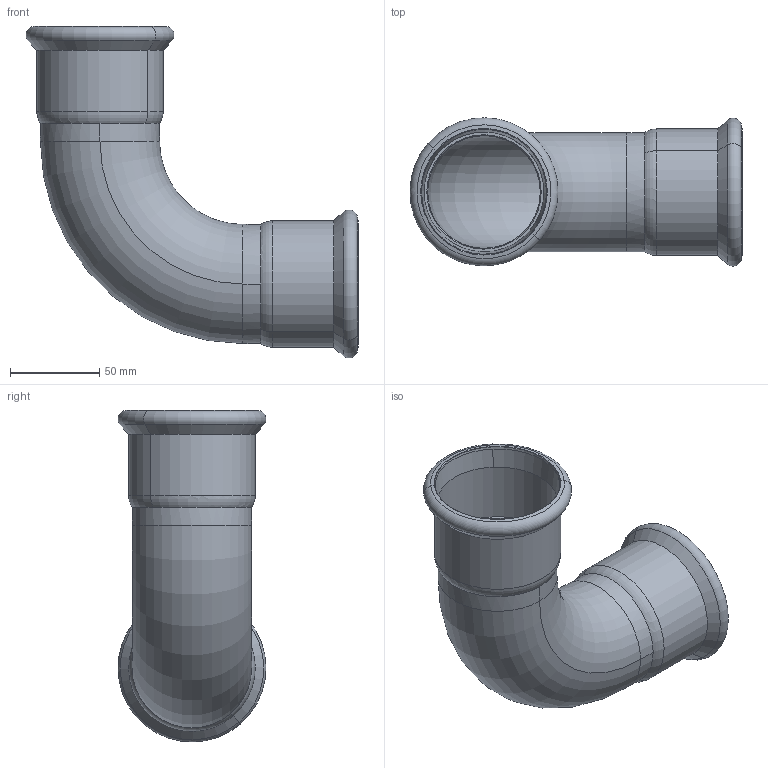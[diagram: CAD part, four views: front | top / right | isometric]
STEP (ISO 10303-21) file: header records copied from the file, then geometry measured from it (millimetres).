
FILE_DESCRIPTION(('CoCreate Modeling STEP Export'),'2;1');
FILE_NAME('C1408 67x67.stp','2014-10-23T15:51:18',(''),(''),'CoCreate Modeling STEP processor for AP214 (Solid Model)','CoCreate Modeling 17.00A 17-Jun-2010 (C) Parametric Technology GmbH','');
FILE_SCHEMA(('AUTOMOTIVE_DESIGN { 1 0 10303 214 1 1 1 1 }'));
Length unit declared in the file: millimetre
Products named in the file (1): BOCHT_90_67mm
Bounding box: 186 x 82.91 x 186 mm (x, y, z)
Volume: 121240.9 mm3; surface area: 112003.5 mm2
Topology: 1 solids, 1 shells, 64 faces, 156 edges, 96 vertices
Faces by surface type: cylinder 24, cone 20, torus 16, plane 4
Entity records: 1496 total; most frequent: ORIENTED_EDGE 312, CARTESIAN_POINT 227, DIRECTION 218, EDGE_CURVE 156, VERTEX_POINT 96, AXIS2_PLACEMENT_3D 87, EDGE_LOOP 68, FACE_OUTER_BOUND 64
